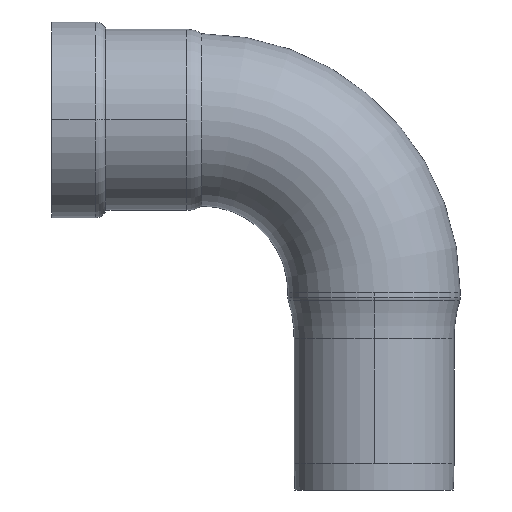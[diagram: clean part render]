
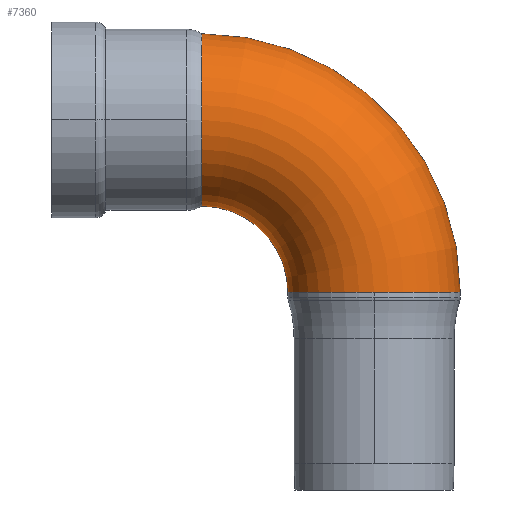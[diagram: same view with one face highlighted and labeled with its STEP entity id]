
A CAD part, front view. The second image highlights one B-rep face of the part: STEP entity #7360.
In plain terms, the highlighted toroidal (fillet/blend) face has major radius 65 mm and minor radius 32.5 mm.
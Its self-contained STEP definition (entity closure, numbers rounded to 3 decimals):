
#6680=CARTESIAN_POINT('',(110.039,49.095,32.5));
#6690=VERTEX_POINT('',#6680);
#6800=CARTESIAN_POINT('',(110.039,49.095,-32.5));
#6810=VERTEX_POINT('',#6800);
#6840=CARTESIAN_POINT('',(110.039,49.095,0.));
#6850=DIRECTION('',(-1.,0.,0.));
#6860=DIRECTION('',(0.,0.,-1.));
#6870=AXIS2_PLACEMENT_3D('',#6840,#6850,#6860);
#6880=CIRCLE('',#6870,32.5);
#6890=CARTESIAN_POINT('',(110.039,81.595,0.));
#6900=VERTEX_POINT('',#6890);
#6910=EDGE_CURVE('',#6900,#6810,#6880,.T.);
#6930=EDGE_CURVE('',#6690,#6900,#6880,.T.);
#6980=CARTESIAN_POINT('',(110.039,49.095,65.));
#6990=DIRECTION('',(0.,-1.,0.));
#7000=DIRECTION('',(0.,0.,-1.));
#7010=AXIS2_PLACEMENT_3D('',#6980,#6990,#7000);
#7020=TOROIDAL_SURFACE('',#7010,65.,32.5);
#7030=CARTESIAN_POINT('',(175.039,49.095,65.));
#7040=DIRECTION('',(0.,0.,1.));
#7050=DIRECTION('',(1.,0.,0.));
#7060=AXIS2_PLACEMENT_3D('',#7030,#7040,#7050);
#7070=CIRCLE('',#7060,32.5);
#7080=CARTESIAN_POINT('',(175.039,81.595,65.));
#7090=VERTEX_POINT('',#7080);
#7100=CARTESIAN_POINT('',(142.539,49.095,65.));
#7110=VERTEX_POINT('',#7100);
#7120=EDGE_CURVE('',#7090,#7110,#7070,.T.);
#7130=ORIENTED_EDGE('',*,*,#7120,.F.);
#7140=CARTESIAN_POINT('',(110.039,49.095,65.));
#7150=DIRECTION('',(0.,-1.,0.));
#7160=DIRECTION('',(0.,0.,-1.));
#7170=AXIS2_PLACEMENT_3D('',#7140,#7150,#7160);
#7180=CIRCLE('',#7170,32.5);
#7190=EDGE_CURVE('',#6690,#7110,#7180,.T.);
#7200=ORIENTED_EDGE('',*,*,#7190,.T.);
#7210=ORIENTED_EDGE('',*,*,#6930,.F.);
#7220=ORIENTED_EDGE('',*,*,#6910,.F.);
#7230=CARTESIAN_POINT('',(110.039,49.095,65.));
#7240=DIRECTION('',(0.,-1.,0.));
#7250=DIRECTION('',(0.,0.,-1.));
#7260=AXIS2_PLACEMENT_3D('',#7230,#7240,#7250);
#7270=CIRCLE('',#7260,97.5);
#7280=CARTESIAN_POINT('',(207.539,49.095,65.));
#7290=VERTEX_POINT('',#7280);
#7300=EDGE_CURVE('',#6810,#7290,#7270,.T.);
#7310=ORIENTED_EDGE('',*,*,#7300,.F.);
#7320=EDGE_CURVE('',#7290,#7090,#7070,.T.);
#7330=ORIENTED_EDGE('',*,*,#7320,.F.);
#7340=EDGE_LOOP('',(#7330,#7310,#7220,#7210,#7200,#7130));
#7350=FACE_OUTER_BOUND('',#7340,.T.);
#7360=ADVANCED_FACE('',(#7350),#7020,.T.);
